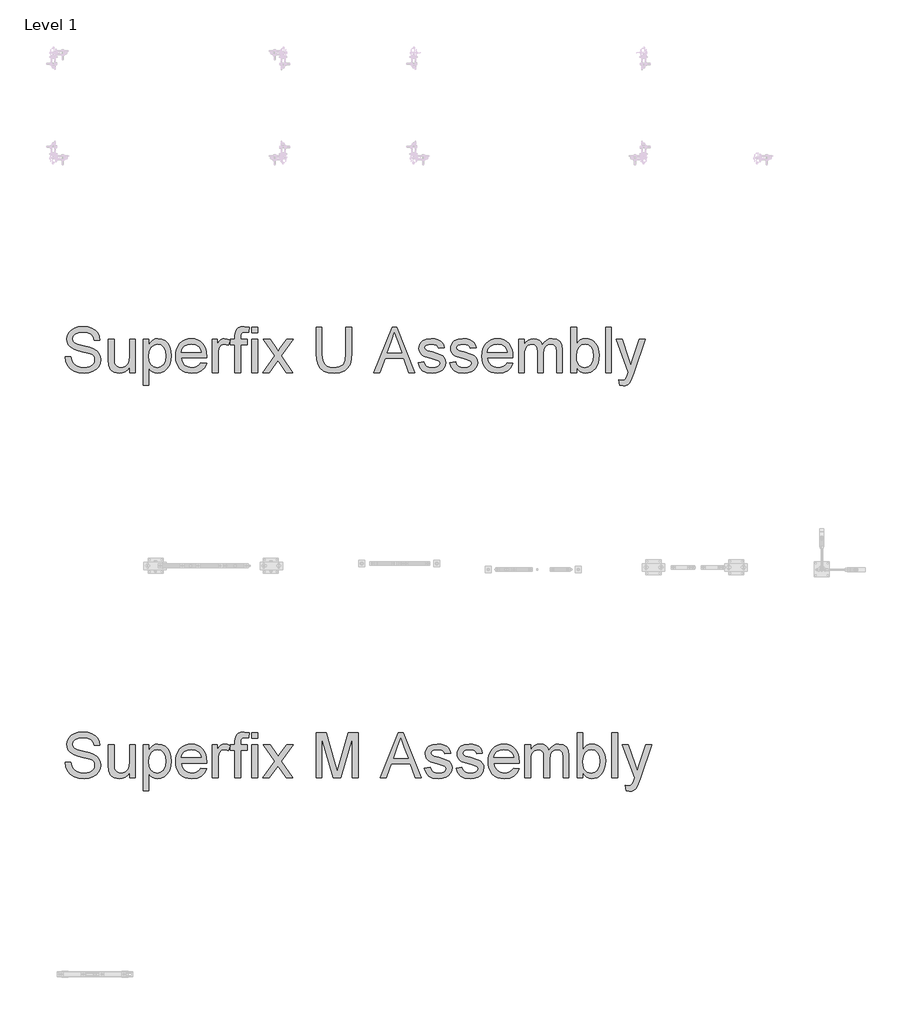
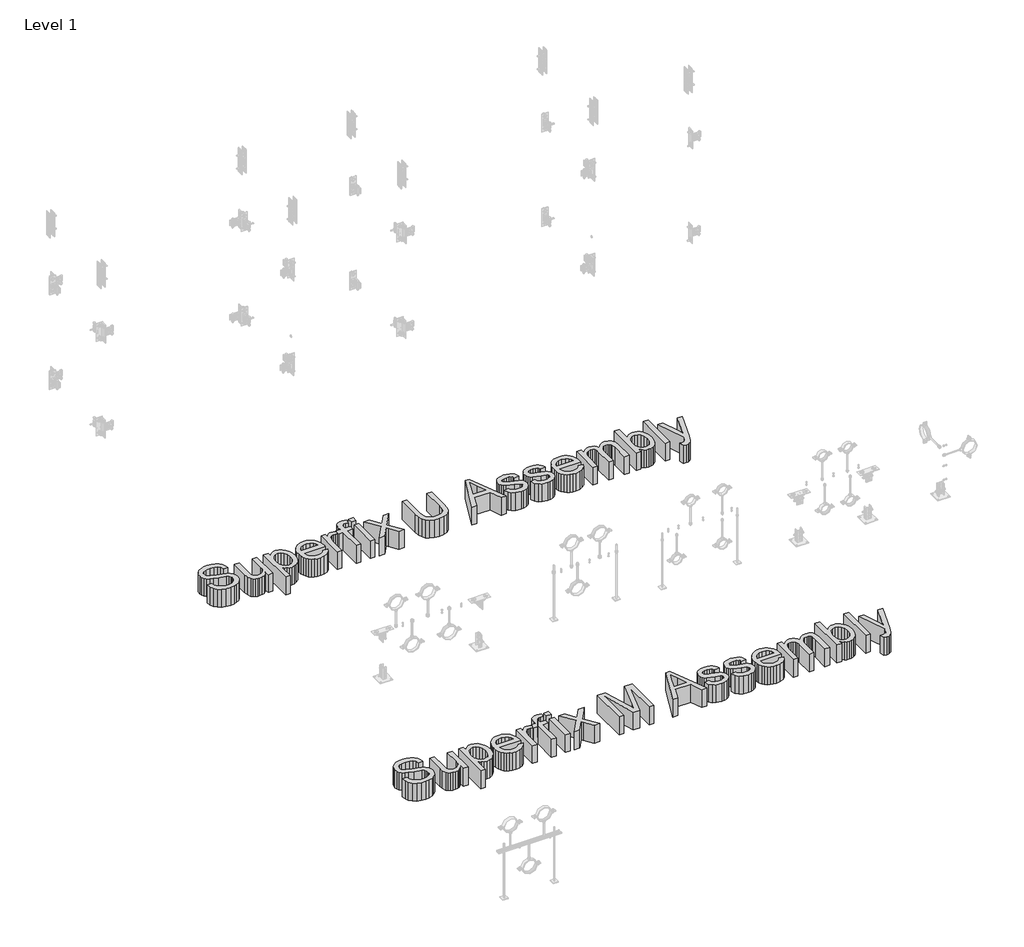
# One storey, part 29 of 32: 2 proxies.
"""IFC4 building model written with IfcOpenShell, lengths in millimetres."""

import ifcopenshell
import ifcopenshell.guid

model = None  # the IFC model being written
_history = None  # IfcOwnerHistory: only IFC2X3 demands one
_inside = {}  # id of a spatial element -> (the spatial element, [elements in it])
_under = {}  # id of a project, library or spatial element -> (it, [spatial elements below it])
_declared = {}  # id of a project -> (the project, [libraries it declares])
_typed = {}  # id of a type object -> (the type object, [elements of that type])
_made_of = {}  # id of a material, layer set ... -> (it, [elements and type objects made of it])


def new_model(schema):
    """Start an empty IFC model of exactly this schema.

    Asked for "IFC4X3", IfcOpenShell would pick the latest addendum, in which some entities
    have other attributes; the version numbers below select the first issue.
    IFC2X3 requires an IfcOwnerHistory on every rooted entity: one is made here for all.
    """
    global model, _history
    if schema == "IFC4X3":
        model = ifcopenshell.file(schema_version=(4, 3, 0, 0))
    else:
        model = ifcopenshell.file(schema=schema)
    _inside.clear()
    _under.clear()
    _declared.clear()
    _typed.clear()
    _made_of.clear()
    _history = None
    if model.schema == "IFC2X3":
        org = make("IfcOrganization", Name="unknown")
        user = make(
            "IfcPersonAndOrganization",
            ThePerson=make("IfcPerson", FamilyName="unknown"),
            TheOrganization=org,
        )
        app = make(
            "IfcApplication",
            ApplicationDeveloper=org,
            Version="unknown",
            ApplicationFullName="unknown",
            ApplicationIdentifier="unknown",
        )
        _history = make(
            "IfcOwnerHistory",
            OwningUser=user,
            OwningApplication=app,
            ChangeAction="ADDED",
            CreationDate=0,
        )
    return model


def make(cls, **values):
    """One entity of the class cls with the attributes given. An attribute that is None is left unset."""
    return model.create_entity(
        cls, **{name: value for name, value in values.items() if value is not None}
    )


def rooted(cls, **values):
    """An entity with a GlobalId (a new one), such as an element, a storey or a relation."""
    return make(cls, GlobalId=ifcopenshell.guid.new(), OwnerHistory=_history, **values)


def si_unit(unit_type, name, prefix=None):
    """IfcSIUnit, for example si_unit("LENGTHUNIT", "METRE", prefix="MILLI")."""
    return make("IfcSIUnit", UnitType=unit_type, Prefix=prefix, Name=name)


def assignment(units):
    """IfcUnitAssignment: the units of a project."""
    return None if units is None else make("IfcUnitAssignment", Units=units)


def point(xyz):
    """IfcCartesianPoint."""
    return None if xyz is None else make("IfcCartesianPoint", Coordinates=xyz)


def direction(xyz):
    """IfcDirection."""
    return None if xyz is None else make("IfcDirection", DirectionRatios=xyz)


def frame(location, z_axis=None, x_axis=None):
    """IfcAxis2Placement3D, a coordinate frame: its origin and axes. An axis left out is left unset."""
    return make(
        "IfcAxis2Placement3D",
        Location=point(location),
        Axis=direction(z_axis),
        RefDirection=direction(x_axis),
    )


def origin():
    """The frame at (0, 0, 0) with its axes left unset."""
    return frame((0.0, 0.0, 0.0))


def origin_with_axes():
    """The frame at (0, 0, 0) with the z axis (0, 0, 1) and the x axis (1, 0, 0) written out."""
    return frame((0.0, 0.0, 0.0), z_axis=(0.0, 0.0, 1.0), x_axis=(1.0, 0.0, 0.0))


def place(relative_to, where):
    """IfcLocalPlacement: puts the frame where relative to a parent placement (None: the world)."""
    return make(
        "IfcLocalPlacement", PlacementRelTo=relative_to, RelativePlacement=where
    )


def context(
    kind, dimensions, precision=None, world=None, true_north=None, identifier=None
):
    """IfcGeometricRepresentationContext, for example the 3D "Model" context."""
    return make(
        "IfcGeometricRepresentationContext",
        ContextIdentifier=identifier,
        ContextType=kind,
        CoordinateSpaceDimension=dimensions,
        Precision=precision,
        WorldCoordinateSystem=world,
        TrueNorth=true_north,
    )


def project(units=None, contexts=None):
    """IfcProject with its units and contexts."""
    return rooted(
        "IfcProject",
        Name="project",
        RepresentationContexts=contexts,
        UnitsInContext=assignment(units),
    )


def spatial(cls, under=None, at=None, **own):
    """A site, building, storey or space (cls), placed at a placement, below another one or the project."""
    s = rooted(cls, ObjectPlacement=at, **own)
    if under is not None:
        _under.setdefault(under.id(), (under, []))[1].append(s)
    return s


def polyline(points):
    """IfcPolyline through the points."""
    return make("IfcPolyline", Points=[point(p) for p in points])


def outline(outer, holes=None, kind="AREA"):
    """IfcArbitraryClosedProfileDef: a profile drawn as a closed curve; with holes, ...WithVoids."""
    if holes is None:
        return make("IfcArbitraryClosedProfileDef", ProfileType=kind, OuterCurve=outer)
    return make(
        "IfcArbitraryProfileDefWithVoids",
        ProfileType=kind,
        OuterCurve=outer,
        InnerCurves=holes,
    )


def extrude(swept, where, along, depth):
    """IfcExtrudedAreaSolid: the profile swept, set in the frame where, extruded along a direction by depth."""
    return make(
        "IfcExtrudedAreaSolid",
        SweptArea=swept,
        Position=where,
        ExtrudedDirection=direction(along),
        Depth=depth,
    )


def shape(context_of_items, identifier, shape_type, items):
    """IfcShapeRepresentation: the items that make up one representation, for example the "Body"."""
    return make(
        "IfcShapeRepresentation",
        ContextOfItems=context_of_items,
        RepresentationIdentifier=identifier,
        RepresentationType=shape_type,
        Items=items,
    )


def made_of(thing, what):
    """Note that an element or type object is made of a material, layer set ...; save() writes the relation."""
    if what is not None:
        _made_of.setdefault(what.id(), (what, []))[1].append(thing)
    return thing


def element(
    cls,
    number,
    at=None,
    inside=None,
    cuts=None,
    type_object=None,
    material=None,
    context=None,
    identifier="Body",
    shape_type=None,
    held_by="IfcProductDefinitionShape",
    body=None,
    shapes=None,
    **own,
):
    """One element of the class cls, such as IfcWall. Its Tag is "e" and its number.

    at: its placement. inside: the storey or other place that contains it. cuts: it is an
    opening in that element (IfcRelVoidsElement). A single representation is given by context,
    identifier, shape_type and body (its items); several are given by shapes. held_by: the class
    of the entity that holds the representations. save() writes the other relations.
    """
    e = rooted(cls, Tag="e%d" % number, ObjectPlacement=at, **own)
    if body is not None:
        shapes = [shape(context, identifier, shape_type, body)]
    if shapes is not None:
        e.Representation = make(held_by, Representations=shapes)
    if inside is not None:
        _inside.setdefault(inside.id(), (inside, []))[1].append(e)
    if cuts is not None:
        rooted(
            "IfcRelVoidsElement", RelatingBuildingElement=cuts, RelatedOpeningElement=e
        )
    if type_object is not None:
        _typed.setdefault(type_object.id(), (type_object, []))[1].append(e)
    return made_of(e, material)


def aggregate(whole, parts):
    """IfcRelAggregates: a whole, such as a stair, and the parts it consists of."""
    return rooted("IfcRelAggregates", RelatingObject=whole, RelatedObjects=parts)


def save(model, path):
    """Write the relations noted so far, then the file.

    IfcRelAggregates (storeys below a building ...), IfcRelContainedInSpatialStructure (elements
    in a storey), IfcRelDefinesByType, IfcRelAssociatesMaterial and IfcRelDeclares: one each for
    every whole, place, type object, material and project.
    """
    for whole, parts in _under.values():
        aggregate(whole, parts)
    for where, things in _inside.values():
        rooted(
            "IfcRelContainedInSpatialStructure",
            RelatedElements=things,
            RelatingStructure=where,
        )
    for kind, things in _typed.values():
        rooted("IfcRelDefinesByType", RelatedObjects=things, RelatingType=kind)
    for what, things in _made_of.values():
        rooted("IfcRelAssociatesMaterial", RelatedObjects=things, RelatingMaterial=what)
    for by, libraries in _declared.values():
        rooted("IfcRelDeclares", RelatingContext=by, RelatedDefinitions=libraries)
    model.write(path)


model = new_model("IFC4")

# Units and contexts
model_context = context("Model", 3, world=origin())
ifc_project = project(units=[si_unit("LENGTHUNIT", "METRE", prefix="MILLI")], contexts=[model_context])

# Site, building, storey
site = spatial("IfcSite", under=ifc_project)
building = spatial("IfcBuilding", under=site)
storey = spatial("IfcBuildingStorey", under=building, Name="Level 1", Elevation=0.0)

# Proxies
placement = place(None, origin())
element("IfcBuildingElementProxy", 1, Name="300mm Arial 2", ObjectType="300mm Arial 2", at=placement, inside=storey, context=model_context, shape_type="SweptSolid", body=[
    extrude(outline(polyline([(-22560.2603171, 27453.0745423), (-22522.5892008, 27453.0745423), (-22518.2665873, 27432.1696479), (-22510.4490949, 27415.3666378), (-22498.2538068, 27402.0309154), (-22480.7978061, 27391.5278845), (-22459.4606504, 27384.7128705), (-22435.6218971, 27382.4411992), (-22414.6342293, 27384.1610475), (-22396.2585236, 27389.3205925), (-22381.3684999, 27397.4875728), (-22370.8378778, 27408.2297271), (-22364.5746868, 27420.5629709), (-22362.4869565, 27433.5032201), (-22364.0504549, 27446.1123755), (-22368.7409504, 27457.0108796), (-22378.2690941, 27466.309097), (-22394.3455372, 27474.1173924), (-22449.1967427, 27488.5015784), (-22485.203193, 27498.020525), (-22508.241803, 27507.0796192), (-22526.9945877, 27519.7531539), (-22540.2843247, 27535.1122272), (-22548.2029847, 27552.8257453), (-22550.842538, 27572.5626143), (-22547.5775853, 27594.626337), (-22537.7827272, 27615.2001375), (-22521.715481, 27632.6377441), (-22499.6333643, 27645.2928848), (-22473.1274665, 27652.9908155), (-22443.7888774, 27655.5567924), (-22412.003873, 27652.8712539), (-22384.1919942, 27644.8146382), (-22361.3465223, 27631.5524922), (-22344.4607387, 27613.250363), (-22333.7737667, 27591.0486846), (-22329.5247297, 27566.0878912), (-22367.195846, 27566.0878912), (-22374.1120275, 27588.5654811), (-22388.5330017, 27604.7890771), (-22411.0657739, 27614.6115264), (-22442.3173494, 27617.8856761), (-22474.3046889, 27614.6483146), (-22496.2488499, 27604.9362299), (-22508.9407787, 27590.6440144), (-22513.1714217, 27573.6662603), (-22510.1731834, 27559.1901038), (-22501.1784686, 27547.5466386), (-22479.9148893, 27537.1355782), (-22439.6685991, 27526.5037885), (-22398.1347218, 27516.4054277), (-22373.0083815, 27507.594654), (-22351.5332701, 27493.9278378), (-22336.5512758, 27477.0604484), (-22327.7496991, 27457.1764265), (-22324.8158402, 27434.4597133), (-22328.1911575, 27411.2371624), (-22338.3171094, 27389.3941689), (-22354.7798287, 27370.595399), (-22377.1654481, 27356.5055185), (-22404.0852131, 27347.7039418), (-22434.1503691, 27344.7700829), (-22471.0581303, 27347.9338681), (-22501.435986, 27357.4252235), (-22525.6334243, 27373.2809375), (-22543.9999329, 27395.5377982), (-22555.7905508, 27422.6507013), (-22560.2603171, 27453.0745423)])), origin_with_axes(), (0.0, 0.0, 1.0), 150.0),
    extrude(outline(polyline([(-22131.7513691, 27349.4789724), (-22131.7513691, 27387.5179707), (-22145.381397, 27368.8157698), (-22161.2555051, 27355.4570549), (-22179.3736934, 27347.4418259), (-22199.7359618, 27344.7700829), (-22218.0840763, 27346.6462811), (-22235.1629979, 27352.2748756), (-22249.4920016, 27360.7361615), (-22259.5903624, 27371.1104337), (-22270.8107633, 27398.8487362), (-22273.0180552, 27433.8711021), (-22273.0180552, 27570.7967807), (-22235.3469389, 27570.7967807), (-22235.3469389, 27451.6030143), (-22233.0660706, 27413.196134), (-22227.5754318, 27400.3846435), (-22218.1668498, 27390.6449677), (-22205.4657239, 27384.4921413), (-22190.0974535, 27382.4411992), (-22173.8462664, 27384.5381266), (-22158.6435429, 27390.8289087), (-22146.1079639, 27400.7341314), (-22137.8582102, 27413.6743806), (-22133.2780794, 27431.3970957), (-22131.7513691, 27455.6497162), (-22131.7513691, 27570.7967807), (-22094.0802528, 27570.7967807), (-22094.0802528, 27349.4789724), (-22131.7513691, 27349.4789724)])), origin_with_axes(), (0.0, 0.0, 1.0), 150.0),
    extrude(outline(polyline([(-22042.2824679, 27264.7189607), (-22042.2824679, 27570.7967807), (-22004.6113516, 27570.7967807), (-22004.6113516, 27533.8614284), (-21992.3240929, 27552.0807842), (-21978.5653063, 27565.0946098), (-21962.5256513, 27572.9029052), (-21943.3957876, 27575.5056703), (-21917.9199594, 27571.8636385), (-21895.6447046, 27560.9375433), (-21877.5081222, 27543.3895721), (-21864.4483114, 27519.8819126), (-21856.5572426, 27492.1252161), (-21853.9268863, 27461.8301338), (-21856.8975334, 27429.612868), (-21865.8094748, 27400.7985108), (-21880.3776018, 27376.8493929), (-21900.3168059, 27359.2278453), (-21923.5393569, 27348.3845235), (-21947.9575243, 27344.7700829), (-21965.2755692, 27347.188907), (-21980.7358101, 27354.4453794), (-21993.9703648, 27365.3990658), (-22004.6113516, 27378.909532), (-22004.6113516, 27264.7189607), (-22042.2824679, 27264.7189607)]), holes=[polyline([(-22004.6113516, 27458.372043), (-22000.5370585, 27424.6004758), (-21988.3141792, 27400.9824518), (-21970.2787644, 27387.0765123), (-21948.7668647, 27382.4411992), (-21926.9054771, 27387.2420592), (-21908.4102098, 27401.6446393), (-21895.8010544, 27426.1271861), (-21891.5980026, 27461.1679462), (-21895.6998869, 27494.7555723), (-21908.0055396, 27518.7046902), (-21926.0133633, 27533.052088), (-21947.2217603, 27537.834554), (-21968.5129308, 27532.7485854), (-21987.2105332, 27517.4906796), (-22000.261147, 27492.5390833), (-22004.6113516, 27458.372043)])]), origin_with_axes(), (0.0, 0.0, 1.0), 150.0),
    extrude(outline(polyline([(-21656.5949841, 27415.403426), (-21619.6596318, 27410.6945364), (-21632.967763, 27382.8642635), (-21654.2037511, 27362.0605367), (-21682.8893497, 27349.0926963), (-21718.5463121, 27344.7700829), (-21741.9206144, 27346.6347848), (-21762.7473338, 27352.2288903), (-21781.0264705, 27361.5523997), (-21796.7580243, 27374.6053127), (-21809.4085664, 27391.024346), (-21818.4446679, 27410.4462161), (-21823.8663288, 27432.8709229), (-21825.6735491, 27458.2984666), (-21823.8479347, 27484.5882337), (-21818.3710915, 27507.7602009), (-21809.2430195, 27527.8143681), (-21796.4637187, 27544.7507355), (-21780.7735516, 27558.2060194), (-21762.9128807, 27567.8169366), (-21742.8817061, 27573.5834868), (-21720.6800277, 27575.5056703), (-21699.1934199, 27573.5880854), (-21679.7623528, 27567.8353307), (-21662.3868263, 27558.2474062), (-21647.0668404, 27544.8243119), (-21634.5611519, 27527.9247327), (-21625.6285172, 27507.9073537), (-21620.2689364, 27484.7721747), (-21618.4824094, 27458.5191958), (-21618.7031386, 27448.3656527), (-21788.0024328, 27448.3656527), (-21781.4817244, 27420.1674978), (-21766.3341833, 27399.4373474), (-21744.4727957, 27386.6902362), (-21717.8105481, 27382.4411992), (-21697.7609794, 27384.4093679), (-21680.8751958, 27390.3138739), (-21667.1531974, 27400.5225993), (-21656.5949841, 27415.403426)]), holes=[polyline([(-21788.0024328, 27486.036769), (-21656.1535257, 27486.036769), (-21661.2486914, 27505.939185), (-21671.2366875, 27520.1762182), (-21693.1992426, 27533.41997), (-21720.8271805, 27537.834554), (-21746.2202352, 27534.3120839), (-21767.2171001, 27523.7446735), (-21781.8128182, 27507.2727572), (-21788.0024328, 27486.036769)])]), origin_with_axes(), (0.0, 0.0, 1.0), 150.0),
    extrude(outline(polyline([(-21580.8112931, 27349.4789724), (-21580.8112931, 27570.7967807), (-21547.8490663, 27570.7967807), (-21547.8490663, 27538.0552832), (-21535.6721723, 27557.0379941), (-21524.4517714, 27568.2216068), (-21513.1945824, 27573.6846544), (-21500.9073238, 27575.5056703), (-21482.145342, 27572.5994025), (-21463.0890547, 27563.8805992), (-21475.6706189, 27530.1090321), (-21488.9143707, 27535.9031735), (-21502.1581225, 27537.834554), (-21513.4061145, 27535.9767499), (-21523.4584901, 27530.4033377), (-21531.5794851, 27521.5373816), (-21537.0333357, 27509.8019459), (-21541.6134665, 27488.7590958), (-21543.1401768, 27465.8032593), (-21543.1401768, 27349.4789724), (-21580.8112931, 27349.4789724)])), origin_with_axes(), (0.0, 0.0, 1.0), 150.0),
    extrude(outline(polyline([(-21430.1268279, 27349.4789724), (-21430.1268279, 27533.1256644), (-21463.0890547, 27533.1256644), (-21463.0890547, 27570.7967807), (-21430.1268279, 27570.7967807), (-21430.1268279, 27593.0904296), (-21426.1537023, 27624.507552), (-21418.5753332, 27637.033934), (-21406.8766858, 27646.9483537), (-21390.505937, 27653.4046827), (-21368.9112639, 27655.5567924), (-21334.5510855, 27651.4365141), (-21340.0693155, 27616.1198425), (-21361.7743532, 27617.8856761), (-21376.0941598, 27616.3221776), (-21385.5027419, 27611.6316822), (-21390.7174692, 27602.6737556), (-21392.4557116, 27588.3079637), (-21392.4557116, 27570.7967807), (-21350.0757057, 27570.7967807), (-21350.0757057, 27533.1256644), (-21392.4557116, 27533.1256644), (-21392.4557116, 27349.4789724), (-21430.1268279, 27349.4789724)])), origin_with_axes(), (0.0, 0.0, 1.0), 150.0),
    extrude(outline(polyline([(-21317.113479, 27349.4789724), (-21317.113479, 27570.7967807), (-21279.4423627, 27570.7967807), (-21279.4423627, 27349.4789724), (-21317.113479, 27349.4789724)])), origin_with_axes(), (0.0, 0.0, 1.0), 150.0),
    extrude(outline(polyline([(-21317.113479, 27613.1767866), (-21317.113479, 27650.8479029), (-21279.4423627, 27650.8479029), (-21279.4423627, 27613.1767866), (-21317.113479, 27613.1767866)])), origin_with_axes(), (0.0, 0.0, 1.0), 150.0),
    extrude(outline(polyline([(-21246.4801359, 27349.4789724), (-21165.9875553, 27460.7264878), (-21241.7712464, 27570.7967807), (-21196.4481845, 27570.7967807), (-21159.8807142, 27517.8217734), (-21142.8109897, 27492.8057978), (-21128.0221334, 27513.2600367), (-21086.3778916, 27570.7967807), (-21041.0548298, 27570.7967807), (-21120.6644935, 27460.7264878), (-21043.9978857, 27349.4789724), (-21089.3209476, 27349.4789724), (-21135.4533497, 27416.3599192), (-21143.9146356, 27428.5736014), (-21201.1570741, 27349.4789724), (-21246.4801359, 27349.4789724)])), origin_with_axes(), (0.0, 0.0, 1.0), 150.0),
    extrude(outline(polyline([(-20690.8311704, 27650.8479029), (-20653.1600541, 27650.8479029), (-20653.1600541, 27476.986872), (-20655.7168339, 27436.2715321), (-20663.3871735, 27404.9187891), (-20677.7161773, 27380.7305479), (-20700.2489495, 27361.5087137), (-20731.0406725, 27348.9547406), (-20770.1465285, 27344.7700829), (-20808.397059, 27348.4121146), (-20838.9772498, 27359.3382099), (-20861.8962981, 27377.1712896), (-20877.1634009, 27401.5342747), (-20885.7442485, 27434.211393), (-20888.604531, 27476.986872), (-20888.604531, 27650.8479029), (-20850.9334147, 27650.8479029), (-20850.9334147, 27478.3112471), (-20849.0756106, 27444.4569065), (-20843.5021984, 27420.8848677), (-20833.4038376, 27404.5601042), (-20817.9711879, 27392.4475895), (-20797.8480428, 27384.9427968), (-20773.6781957, 27382.4411992), (-20735.3632859, 27387.389212), (-20721.0204866, 27393.5742281), (-20709.8874577, 27402.2332505), (-20701.550332, 27414.4101446), (-20695.5952422, 27431.1487754), (-20690.8311704, 27478.3112471), (-20690.8311704, 27650.8479029)])), origin_with_axes(), (0.0, 0.0, 1.0), 150.0),
    extrude(outline(polyline([(-20504.6093044, 27349.4789724), (-20384.311892, 27650.8479029), (-20352.232582, 27650.8479029), (-20231.9351696, 27349.4789724), (-20271.7400015, 27349.4789724), (-20306.2473326, 27443.6567632), (-20430.3707178, 27443.6567632), (-20464.8044725, 27349.4789724), (-20504.6093044, 27349.4789724)]), holes=[polyline([(-20416.5383548, 27481.3278795), (-20320.0061192, 27481.3278795), (-20347.1558105, 27555.4193133), (-20368.272237, 27613.1767866), (-20387.0342188, 27561.8940364), (-20416.5383548, 27481.3278795)])]), origin_with_axes(), (0.0, 0.0, 1.0), 150.0),
    extrude(outline(polyline([(-20210.5244375, 27415.403426), (-20172.8533212, 27420.1123155), (-20166.9120269, 27403.9990841), (-20155.4157146, 27392.1532839), (-20138.2908077, 27384.8692204), (-20115.4637299, 27382.4411992), (-20092.9125636, 27384.6668853), (-20077.0568496, 27391.3439435), (-20067.6758587, 27401.01924), (-20064.5488618, 27412.2396408), (-20067.6942528, 27421.8413609), (-20077.130426, 27429.1622126), (-20115.9051883, 27439.9043668), (-20172.632592, 27458.3352548), (-20186.9891868, 27467.596684), (-20197.3910502, 27479.8563515), (-20203.7094235, 27494.332508), (-20205.8155479, 27510.2434043), (-20204.1232908, 27524.8391225), (-20199.0465192, 27538.3128006), (-20191.0450858, 27550.1310096), (-20180.5788431, 27559.7603209), (-20156.6297252, 27570.9071453), (-20124.2193214, 27575.5056703), (-20099.6999864, 27573.6570632), (-20078.3812248, 27568.1112422), (-20061.2379238, 27559.410833), (-20049.2449708, 27548.0984616), (-20041.2987197, 27533.3371966), (-20036.2955246, 27514.2901063), (-20073.9666409, 27509.5812167), (-20078.7215157, 27521.436214), (-20088.1300977, 27530.3665495), (-20102.2843574, 27535.9675528), (-20121.2762654, 27537.834554), (-20142.9077268, 27536.0503263), (-20157.328701, 27530.6976433), (-20165.440499, 27522.9721214), (-20168.1444316, 27514.0693771), (-20163.6562713, 27503.1064936), (-20149.6031791, 27494.7923605), (-20117.1559871, 27486.772533), (-20061.8633232, 27469.0406209), (-20047.258408, 27460.5609409), (-20036.18516, 27448.9542639), (-20029.2045991, 27434.1838018), (-20026.8777455, 27416.2127664), (-20029.6092693, 27397.6347256), (-20037.8038407, 27380.1603308), (-20051.1487601, 27365.1599425), (-20069.3313277, 27354.003921), (-20091.2938828, 27347.0785424), (-20115.9787647, 27344.7700829), (-20153.9625807, 27349.221455), (-20181.6824891, 27362.5755715), (-20200.1869534, 27384.6852794), (-20210.5244375, 27415.403426)])), origin_with_axes(), (0.0, 0.0, 1.0), 150.0),
    extrude(outline(polyline([(-19998.6244083, 27415.403426), (-19960.9532919, 27420.1123155), (-19955.0119977, 27403.9990841), (-19943.5156854, 27392.1532839), (-19926.3907785, 27384.8692204), (-19903.5637007, 27382.4411992), (-19881.0125344, 27384.6668853), (-19865.1568204, 27391.3439435), (-19855.7758295, 27401.01924), (-19852.6488326, 27412.2396408), (-19855.7942236, 27421.8413609), (-19865.2303968, 27429.1622126), (-19904.0051591, 27439.9043668), (-19960.7325628, 27458.3352548), (-19975.0891576, 27467.596684), (-19985.491021, 27479.8563515), (-19991.8093943, 27494.332508), (-19993.9155187, 27510.2434043), (-19992.2232615, 27524.8391225), (-19987.14649, 27538.3128006), (-19979.1450566, 27550.1310096), (-19968.6788138, 27559.7603209), (-19944.729696, 27570.9071453), (-19912.3192922, 27575.5056703), (-19887.7999572, 27573.6570632), (-19866.4811956, 27568.1112422), (-19849.3378946, 27559.410833), (-19837.3449416, 27548.0984616), (-19829.3986905, 27533.3371966), (-19824.3954953, 27514.2901063), (-19862.0666116, 27509.5812167), (-19866.8214864, 27521.436214), (-19876.2300685, 27530.3665495), (-19890.3843282, 27535.9675528), (-19909.3762362, 27537.834554), (-19931.0076975, 27536.0503263), (-19945.4286718, 27530.6976433), (-19953.5404697, 27522.9721214), (-19956.2444024, 27514.0693771), (-19951.7562421, 27503.1064936), (-19937.7031499, 27494.7923605), (-19905.2559579, 27486.772533), (-19849.963294, 27469.0406209), (-19835.3583788, 27460.5609409), (-19824.2851307, 27448.9542639), (-19817.3045699, 27434.1838018), (-19814.9777163, 27416.2127664), (-19817.7092401, 27397.6347256), (-19825.9038115, 27380.1603308), (-19839.2487309, 27365.1599425), (-19857.4312985, 27354.003921), (-19879.3938536, 27347.0785424), (-19904.0787355, 27344.7700829), (-19942.0625515, 27349.221455), (-19969.7824598, 27362.5755715), (-19988.2869242, 27384.6852794), (-19998.6244083, 27415.403426)])), origin_with_axes(), (0.0, 0.0, 1.0), 150.0),
    extrude(outline(polyline([(-19617.645814, 27415.403426), (-19580.7104617, 27410.6945364), (-19594.0185929, 27382.8642635), (-19615.2545811, 27362.0605367), (-19643.9401797, 27349.0926963), (-19679.597142, 27344.7700829), (-19702.9714443, 27346.6347848), (-19723.7981638, 27352.2288903), (-19742.0773004, 27361.5523997), (-19757.8088542, 27374.6053127), (-19770.4593963, 27391.024346), (-19779.4954978, 27410.4462161), (-19784.9171587, 27432.8709229), (-19786.724379, 27458.2984666), (-19784.8987646, 27484.5882337), (-19779.4219214, 27507.7602009), (-19770.2938494, 27527.8143681), (-19757.5145486, 27544.7507355), (-19741.8243815, 27558.2060194), (-19723.9637107, 27567.8169366), (-19703.932536, 27573.5834868), (-19681.7308576, 27575.5056703), (-19660.2442498, 27573.5880854), (-19640.8131827, 27567.8353307), (-19623.4376562, 27558.2474062), (-19608.1176704, 27544.8243119), (-19595.6119818, 27527.9247327), (-19586.6793471, 27507.9073537), (-19581.3197663, 27484.7721747), (-19579.5332393, 27458.5191958), (-19579.7539685, 27448.3656527), (-19749.0532627, 27448.3656527), (-19742.5325544, 27420.1674978), (-19727.3850132, 27399.4373474), (-19705.5236256, 27386.6902362), (-19678.861378, 27382.4411992), (-19658.8118093, 27384.4093679), (-19641.9260257, 27390.3138739), (-19628.2040273, 27400.5225993), (-19617.645814, 27415.403426)]), holes=[polyline([(-19749.0532627, 27486.036769), (-19617.2043557, 27486.036769), (-19622.2995213, 27505.939185), (-19632.2875175, 27520.1762182), (-19654.2500726, 27533.41997), (-19681.8780104, 27537.834554), (-19707.2710651, 27534.3120839), (-19728.26793, 27523.7446735), (-19742.8636482, 27507.2727572), (-19749.0532627, 27486.036769)])]), origin_with_axes(), (0.0, 0.0, 1.0), 150.0),
    extrude(outline(polyline([(-19541.862123, 27349.4789724), (-19541.862123, 27570.7967807), (-19504.1910067, 27570.7967807), (-19504.1910067, 27534.3764632), (-19492.8602413, 27551.1058969), (-19478.2921143, 27564.211693), (-19460.9832664, 27572.682176), (-19441.4303384, 27575.5056703), (-19420.4794587, 27572.6269937), (-19403.6856457, 27563.9909638), (-19391.1408696, 27550.1677978), (-19382.9371011, 27531.7277128), (-19369.2059057, 27550.8805692), (-19353.5433297, 27564.5611809), (-19335.9493733, 27572.7695479), (-19316.4240364, 27575.5056703), (-19288.1063198, 27570.9531306), (-19267.1646372, 27557.2955115), (-19254.2243881, 27534.1649311), (-19249.9109717, 27501.1935072), (-19249.9109717, 27349.4789724), (-19287.582088, 27349.4789724), (-19287.582088, 27485.0066995), (-19291.0769669, 27516.46061), (-19295.9881916, 27525.1334281), (-19303.7321076, 27531.948442), (-19313.6925126, 27536.363026), (-19325.2532043, 27537.834554), (-19345.661458, 27534.0637635), (-19362.2989212, 27522.7513922), (-19373.3629722, 27503.1248877), (-19377.0509892, 27474.411698), (-19377.0509892, 27349.4789724), (-19414.7221055, 27349.4789724), (-19414.7221055, 27489.2005542), (-19416.9018063, 27510.5009217), (-19423.4409088, 27525.6944481), (-19434.9464182, 27534.7995275), (-19452.0253398, 27537.834554), (-19466.5382845, 27535.811203), (-19479.9107951, 27529.7411501), (-19490.9472549, 27519.771548), (-19498.4520476, 27506.0495496), (-19502.756267, 27487.0116563), (-19504.1910067, 27461.0943698), (-19504.1910067, 27349.4789724), (-19541.862123, 27349.4789724)])), origin_with_axes(), (0.0, 0.0, 1.0), 150.0),
    extrude(outline(polyline([(-19155.7331809, 27349.4789724), (-19193.4042972, 27349.4789724), (-19193.4042972, 27650.8479029), (-19155.7331809, 27650.8479029), (-19155.7331809, 27539.0853527), (-19143.3447547, 27555.0192417), (-19129.3560419, 27566.4005909), (-19113.7670423, 27573.2294004), (-19096.5777561, 27575.5056703), (-19077.1719808, 27573.4547281), (-19058.8330634, 27567.3019018), (-19042.6094674, 27557.4334673), (-19029.5496566, 27544.2357007), (-19019.31334, 27527.8373607), (-19011.560227, 27508.3672061), (-19006.6765935, 27486.6345773), (-19005.0487157, 27463.4488145), (-19006.7340751, 27436.6945964), (-19011.7901532, 27413.1593458), (-19020.2169502, 27392.8430626), (-19032.0144659, 27375.7457469), (-19046.1756235, 27362.1938939), (-19061.6933459, 27352.5139989), (-19078.5676332, 27346.7060619), (-19096.7984853, 27344.7700829), (-19114.5533901, 27347.2670819), (-19130.2941409, 27354.7580791), (-19144.0207379, 27367.2430743), (-19155.7331809, 27384.7220676), (-19155.7331809, 27349.4789724)]), holes=[polyline([(-19155.7331809, 27461.682981), (-19153.1580069, 27430.2658586), (-19145.432485, 27409.0022792), (-19136.304413, 27397.3818067), (-19125.695616, 27389.0814692), (-19113.6060939, 27384.1012667), (-19100.0358468, 27382.4411992), (-19078.2940209, 27387.3340297), (-19059.7159802, 27402.0125213), (-19046.968869, 27426.3847035), (-19042.719832, 27460.3586058), (-19046.7941251, 27494.8291487), (-19059.0170044, 27518.9254194), (-19077.015631, 27533.1072703), (-19098.4171661, 27537.834554), (-19120.158992, 27532.9417234), (-19138.7370327, 27518.2632318), (-19151.4841439, 27494.332508), (-19155.7331809, 27461.682981)])]), origin_with_axes(), (0.0, 0.0, 1.0), 150.0),
    extrude(outline(polyline([(-18962.6687098, 27349.4789724), (-18962.6687098, 27650.8479029), (-18924.9975935, 27650.8479029), (-18924.9975935, 27349.4789724), (-18962.6687098, 27349.4789724)])), origin_with_axes(), (0.0, 0.0, 1.0), 150.0),
    extrude(outline(polyline([(-18868.4909191, 27264.7189607), (-18873.1998086, 27300.9921255), (-18854.0699449, 27297.6811875), (-18836.1908799, 27301.8382541), (-18825.2279964, 27313.4265369), (-18814.9273006, 27341.1648393), (-18811.9842446, 27350.2883128), (-18892.0353668, 27570.7967807), (-18852.3041113, 27570.7967807), (-18809.850529, 27447.9241943), (-18795.0616728, 27398.7751598), (-18780.2728166, 27442.1852352), (-18736.642012, 27570.7967807), (-18697.2050621, 27570.7967807), (-18774.2395519, 27344.1814717), (-18794.2523324, 27295.0324371), (-18804.497846, 27279.34227), (-18816.104523, 27268.4713571), (-18829.5873981, 27262.1253927), (-18845.4615062, 27260.0100712), (-18868.4909191, 27264.7189607)])), origin_with_axes(), (0.0, 0.0, 1.0), 150.0),
])
element("IfcBuildingElementProxy", 2, Name="300mm Arial 2", ObjectType="300mm Arial 2", at=placement, inside=storey, context=model_context, shape_type="SweptSolid", body=[
    extrude(outline(polyline([(-22560.2603171, 24753.0745423), (-22522.5892008, 24753.0745423), (-22518.2665873, 24732.1696479), (-22510.4490949, 24715.3666378), (-22498.2538068, 24702.0309154), (-22480.7978061, 24691.5278845), (-22459.4606504, 24684.7128705), (-22435.6218971, 24682.4411992), (-22414.6342293, 24684.1610475), (-22396.2585236, 24689.3205925), (-22381.3684999, 24697.4875728), (-22370.8378778, 24708.2297271), (-22364.5746868, 24720.5629709), (-22362.4869565, 24733.5032201), (-22364.0504549, 24746.1123755), (-22368.7409504, 24757.0108796), (-22378.2690941, 24766.309097), (-22394.3455372, 24774.1173924), (-22449.1967427, 24788.5015784), (-22485.203193, 24798.020525), (-22508.241803, 24807.0796192), (-22526.9945877, 24819.7531539), (-22540.2843247, 24835.1122272), (-22548.2029847, 24852.8257453), (-22550.842538, 24872.5626143), (-22547.5775853, 24894.626337), (-22537.7827272, 24915.2001375), (-22521.715481, 24932.6377441), (-22499.6333643, 24945.2928848), (-22473.1274665, 24952.9908155), (-22443.7888774, 24955.5567924), (-22412.003873, 24952.8712539), (-22384.1919942, 24944.8146382), (-22361.3465223, 24931.5524922), (-22344.4607387, 24913.250363), (-22333.7737667, 24891.0486846), (-22329.5247297, 24866.0878912), (-22367.195846, 24866.0878912), (-22374.1120275, 24888.5654811), (-22388.5330017, 24904.7890771), (-22411.0657739, 24914.6115264), (-22442.3173494, 24917.8856761), (-22474.3046889, 24914.6483146), (-22496.2488499, 24904.9362299), (-22508.9407787, 24890.6440144), (-22513.1714217, 24873.6662603), (-22510.1731834, 24859.1901038), (-22501.1784686, 24847.5466386), (-22479.9148893, 24837.1355782), (-22439.6685991, 24826.5037885), (-22398.1347218, 24816.4054277), (-22373.0083815, 24807.594654), (-22351.5332701, 24793.9278378), (-22336.5512758, 24777.0604484), (-22327.7496991, 24757.1764265), (-22324.8158402, 24734.4597133), (-22328.1911575, 24711.2371624), (-22338.3171094, 24689.3941689), (-22354.7798287, 24670.595399), (-22377.1654481, 24656.5055185), (-22404.0852131, 24647.7039418), (-22434.1503691, 24644.7700829), (-22471.0581303, 24647.9338681), (-22501.435986, 24657.4252235), (-22525.6334243, 24673.2809375), (-22543.9999329, 24695.5377982), (-22555.7905508, 24722.6507013), (-22560.2603171, 24753.0745423)])), origin_with_axes(), (0.0, 0.0, 1.0), 150.0),
    extrude(outline(polyline([(-22131.7513691, 24649.4789724), (-22131.7513691, 24687.5179707), (-22145.381397, 24668.8157698), (-22161.2555051, 24655.4570549), (-22179.3736934, 24647.4418259), (-22199.7359618, 24644.7700829), (-22218.0840763, 24646.6462811), (-22235.1629979, 24652.2748756), (-22249.4920016, 24660.7361615), (-22259.5903624, 24671.1104337), (-22270.8107633, 24698.8487362), (-22273.0180552, 24733.8711021), (-22273.0180552, 24870.7967807), (-22235.3469389, 24870.7967807), (-22235.3469389, 24751.6030143), (-22233.0660706, 24713.196134), (-22227.5754318, 24700.3846435), (-22218.1668498, 24690.6449677), (-22205.4657239, 24684.4921413), (-22190.0974535, 24682.4411992), (-22173.8462664, 24684.5381266), (-22158.6435429, 24690.8289087), (-22146.1079639, 24700.7341314), (-22137.8582102, 24713.6743806), (-22133.2780794, 24731.3970957), (-22131.7513691, 24755.6497162), (-22131.7513691, 24870.7967807), (-22094.0802528, 24870.7967807), (-22094.0802528, 24649.4789724), (-22131.7513691, 24649.4789724)])), origin_with_axes(), (0.0, 0.0, 1.0), 150.0),
    extrude(outline(polyline([(-22042.2824679, 24564.7189607), (-22042.2824679, 24870.7967807), (-22004.6113516, 24870.7967807), (-22004.6113516, 24833.8614284), (-21992.3240929, 24852.0807842), (-21978.5653063, 24865.0946098), (-21962.5256513, 24872.9029052), (-21943.3957876, 24875.5056703), (-21917.9199594, 24871.8636385), (-21895.6447046, 24860.9375433), (-21877.5081222, 24843.3895721), (-21864.4483114, 24819.8819126), (-21856.5572426, 24792.1252161), (-21853.9268863, 24761.8301338), (-21856.8975334, 24729.612868), (-21865.8094748, 24700.7985108), (-21880.3776018, 24676.8493929), (-21900.3168059, 24659.2278453), (-21923.5393569, 24648.3845235), (-21947.9575243, 24644.7700829), (-21965.2755692, 24647.188907), (-21980.7358101, 24654.4453794), (-21993.9703648, 24665.3990658), (-22004.6113516, 24678.909532), (-22004.6113516, 24564.7189607), (-22042.2824679, 24564.7189607)]), holes=[polyline([(-22004.6113516, 24758.372043), (-22000.5370585, 24724.6004758), (-21988.3141792, 24700.9824518), (-21970.2787644, 24687.0765123), (-21948.7668647, 24682.4411992), (-21926.9054771, 24687.2420592), (-21908.4102098, 24701.6446393), (-21895.8010544, 24726.1271861), (-21891.5980026, 24761.1679462), (-21895.6998869, 24794.7555723), (-21908.0055396, 24818.7046902), (-21926.0133633, 24833.052088), (-21947.2217603, 24837.834554), (-21968.5129308, 24832.7485854), (-21987.2105332, 24817.4906796), (-22000.261147, 24792.5390833), (-22004.6113516, 24758.372043)])]), origin_with_axes(), (0.0, 0.0, 1.0), 150.0),
    extrude(outline(polyline([(-21656.5949841, 24715.403426), (-21619.6596318, 24710.6945364), (-21632.967763, 24682.8642635), (-21654.2037511, 24662.0605367), (-21682.8893497, 24649.0926963), (-21718.5463121, 24644.7700829), (-21741.9206144, 24646.6347848), (-21762.7473338, 24652.2288903), (-21781.0264705, 24661.5523997), (-21796.7580243, 24674.6053127), (-21809.4085664, 24691.024346), (-21818.4446679, 24710.4462161), (-21823.8663288, 24732.8709229), (-21825.6735491, 24758.2984666), (-21823.8479347, 24784.5882337), (-21818.3710915, 24807.7602009), (-21809.2430195, 24827.8143681), (-21796.4637187, 24844.7507355), (-21780.7735516, 24858.2060194), (-21762.9128807, 24867.8169366), (-21742.8817061, 24873.5834868), (-21720.6800277, 24875.5056703), (-21699.1934199, 24873.5880854), (-21679.7623528, 24867.8353307), (-21662.3868263, 24858.2474062), (-21647.0668404, 24844.8243119), (-21634.5611519, 24827.9247327), (-21625.6285172, 24807.9073537), (-21620.2689364, 24784.7721747), (-21618.4824094, 24758.5191958), (-21618.7031386, 24748.3656527), (-21788.0024328, 24748.3656527), (-21781.4817244, 24720.1674978), (-21766.3341833, 24699.4373474), (-21744.4727957, 24686.6902362), (-21717.8105481, 24682.4411992), (-21697.7609794, 24684.4093679), (-21680.8751958, 24690.3138739), (-21667.1531974, 24700.5225993), (-21656.5949841, 24715.403426)]), holes=[polyline([(-21788.0024328, 24786.036769), (-21656.1535257, 24786.036769), (-21661.2486914, 24805.939185), (-21671.2366875, 24820.1762182), (-21693.1992426, 24833.41997), (-21720.8271805, 24837.834554), (-21746.2202352, 24834.3120839), (-21767.2171001, 24823.7446735), (-21781.8128182, 24807.2727572), (-21788.0024328, 24786.036769)])]), origin_with_axes(), (0.0, 0.0, 1.0), 150.0),
    extrude(outline(polyline([(-21580.8112931, 24649.4789724), (-21580.8112931, 24870.7967807), (-21547.8490663, 24870.7967807), (-21547.8490663, 24838.0552832), (-21535.6721723, 24857.0379941), (-21524.4517714, 24868.2216068), (-21513.1945824, 24873.6846544), (-21500.9073238, 24875.5056703), (-21482.145342, 24872.5994025), (-21463.0890547, 24863.8805992), (-21475.6706189, 24830.1090321), (-21488.9143707, 24835.9031735), (-21502.1581225, 24837.834554), (-21513.4061145, 24835.9767499), (-21523.4584901, 24830.4033377), (-21531.5794851, 24821.5373816), (-21537.0333357, 24809.8019459), (-21541.6134665, 24788.7590958), (-21543.1401768, 24765.8032593), (-21543.1401768, 24649.4789724), (-21580.8112931, 24649.4789724)])), origin_with_axes(), (0.0, 0.0, 1.0), 150.0),
    extrude(outline(polyline([(-21430.1268279, 24649.4789724), (-21430.1268279, 24833.1256644), (-21463.0890547, 24833.1256644), (-21463.0890547, 24870.7967807), (-21430.1268279, 24870.7967807), (-21430.1268279, 24893.0904296), (-21426.1537023, 24924.507552), (-21418.5753332, 24937.033934), (-21406.8766858, 24946.9483537), (-21390.505937, 24953.4046827), (-21368.9112639, 24955.5567924), (-21334.5510855, 24951.4365141), (-21340.0693155, 24916.1198425), (-21361.7743532, 24917.8856761), (-21376.0941598, 24916.3221776), (-21385.5027419, 24911.6316822), (-21390.7174692, 24902.6737556), (-21392.4557116, 24888.3079637), (-21392.4557116, 24870.7967807), (-21350.0757057, 24870.7967807), (-21350.0757057, 24833.1256644), (-21392.4557116, 24833.1256644), (-21392.4557116, 24649.4789724), (-21430.1268279, 24649.4789724)])), origin_with_axes(), (0.0, 0.0, 1.0), 150.0),
    extrude(outline(polyline([(-21317.113479, 24649.4789724), (-21317.113479, 24870.7967807), (-21279.4423627, 24870.7967807), (-21279.4423627, 24649.4789724), (-21317.113479, 24649.4789724)])), origin_with_axes(), (0.0, 0.0, 1.0), 150.0),
    extrude(outline(polyline([(-21317.113479, 24913.1767866), (-21317.113479, 24950.8479029), (-21279.4423627, 24950.8479029), (-21279.4423627, 24913.1767866), (-21317.113479, 24913.1767866)])), origin_with_axes(), (0.0, 0.0, 1.0), 150.0),
    extrude(outline(polyline([(-21246.4801359, 24649.4789724), (-21165.9875553, 24760.7264878), (-21241.7712464, 24870.7967807), (-21196.4481845, 24870.7967807), (-21159.8807142, 24817.8217734), (-21142.8109897, 24792.8057978), (-21128.0221334, 24813.2600367), (-21086.3778916, 24870.7967807), (-21041.0548298, 24870.7967807), (-21120.6644935, 24760.7264878), (-21043.9978857, 24649.4789724), (-21089.3209476, 24649.4789724), (-21135.4533497, 24716.3599192), (-21143.9146356, 24728.5736014), (-21201.1570741, 24649.4789724), (-21246.4801359, 24649.4789724)])), origin_with_axes(), (0.0, 0.0, 1.0), 150.0),
    extrude(outline(polyline([(-20888.604531, 24649.4789724), (-20888.604531, 24950.8479029), (-20823.7837234, 24950.8479029), (-20762.126701, 24738.4328389), (-20749.6922896, 24694.0662702), (-20736.2278086, 24742.1116588), (-20675.6008558, 24950.8479029), (-20610.7800482, 24950.8479029), (-20610.7800482, 24649.4789724), (-20648.4511645, 24649.4789724), (-20648.4511645, 24913.1767866), (-20724.1612791, 24649.4789724), (-20775.2233001, 24649.4789724), (-20850.9334147, 24913.1767866), (-20850.9334147, 24649.4789724), (-20888.604531, 24649.4789724)])), origin_with_axes(), (0.0, 0.0, 1.0), 150.0),
    extrude(outline(polyline([(-20462.2292986, 24649.4789724), (-20341.9318862, 24950.8479029), (-20309.8525762, 24950.8479029), (-20189.5551638, 24649.4789724), (-20229.3599956, 24649.4789724), (-20263.8673268, 24743.6567632), (-20387.9907119, 24743.6567632), (-20422.4244667, 24649.4789724), (-20462.2292986, 24649.4789724)]), holes=[polyline([(-20374.1583489, 24781.3278795), (-20277.6261134, 24781.3278795), (-20304.7758046, 24855.4193133), (-20325.8922312, 24913.1767866), (-20344.6542129, 24861.8940364), (-20374.1583489, 24781.3278795)])]), origin_with_axes(), (0.0, 0.0, 1.0), 150.0),
    extrude(outline(polyline([(-20168.1444316, 24715.403426), (-20130.4733153, 24720.1123155), (-20124.5320211, 24703.9990841), (-20113.0357088, 24692.1532839), (-20095.9108019, 24684.8692204), (-20073.0837241, 24682.4411992), (-20050.5325578, 24684.6668853), (-20034.6768438, 24691.3439435), (-20025.2958529, 24701.01924), (-20022.1688559, 24712.2396408), (-20025.314247, 24721.8413609), (-20034.7504202, 24729.1622126), (-20073.5251825, 24739.9043668), (-20130.2525861, 24758.3352548), (-20144.609181, 24767.596684), (-20155.0110444, 24779.8563515), (-20161.3294177, 24794.332508), (-20163.4355421, 24810.2434043), (-20161.7432849, 24824.8391225), (-20156.6665134, 24838.3128006), (-20148.66508, 24850.1310096), (-20138.1988372, 24859.7603209), (-20114.2497193, 24870.9071453), (-20081.8393156, 24875.5056703), (-20057.3199806, 24873.6570632), (-20036.001219, 24868.1112422), (-20018.857918, 24859.410833), (-20006.8649649, 24848.0984616), (-19998.9187139, 24833.3371966), (-19993.9155187, 24814.2901063), (-20031.586635, 24809.5812167), (-20036.3415098, 24821.436214), (-20045.7500918, 24830.3665495), (-20059.9043516, 24835.9675528), (-20078.8962596, 24837.834554), (-20100.5277209, 24836.0503263), (-20114.9486951, 24830.6976433), (-20123.0604931, 24822.9721214), (-20125.7644258, 24814.0693771), (-20121.2762654, 24803.1064936), (-20107.2231732, 24794.7923605), (-20074.7759813, 24786.772533), (-20019.4833174, 24769.0406209), (-20004.8784022, 24760.5609409), (-19993.8051541, 24748.9542639), (-19986.8245933, 24734.1838018), (-19984.4977396, 24716.2127664), (-19987.2292635, 24697.6347256), (-19995.4238349, 24680.1603308), (-20008.7687543, 24665.1599425), (-20026.9513219, 24654.003921), (-20048.913877, 24647.0785424), (-20073.5987589, 24644.7700829), (-20111.5825749, 24649.221455), (-20139.3024832, 24662.5755715), (-20157.8069476, 24684.6852794), (-20168.1444316, 24715.403426)])), origin_with_axes(), (0.0, 0.0, 1.0), 150.0),
    extrude(outline(polyline([(-19956.2444024, 24715.403426), (-19918.5732861, 24720.1123155), (-19912.6319919, 24703.9990841), (-19901.1356795, 24692.1532839), (-19884.0107727, 24684.8692204), (-19861.1836949, 24682.4411992), (-19838.6325286, 24684.6668853), (-19822.7768146, 24691.3439435), (-19813.3958237, 24701.01924), (-19810.2688267, 24712.2396408), (-19813.4142178, 24721.8413609), (-19822.850391, 24729.1622126), (-19861.6251533, 24739.9043668), (-19918.3525569, 24758.3352548), (-19932.7091518, 24767.596684), (-19943.1110152, 24779.8563515), (-19949.4293884, 24794.332508), (-19951.5355129, 24810.2434043), (-19949.8432557, 24824.8391225), (-19944.7664842, 24838.3128006), (-19936.7650508, 24850.1310096), (-19926.298808, 24859.7603209), (-19902.3496901, 24870.9071453), (-19869.9392863, 24875.5056703), (-19845.4199514, 24873.6570632), (-19824.1011897, 24868.1112422), (-19806.9578888, 24859.410833), (-19794.9649357, 24848.0984616), (-19787.0186846, 24833.3371966), (-19782.0154895, 24814.2901063), (-19819.6866058, 24809.5812167), (-19824.4414806, 24821.436214), (-19833.8500626, 24830.3665495), (-19848.0043224, 24835.9675528), (-19866.9962304, 24837.834554), (-19888.6276917, 24836.0503263), (-19903.0486659, 24830.6976433), (-19911.1604639, 24822.9721214), (-19913.8643966, 24814.0693771), (-19909.3762362, 24803.1064936), (-19895.323144, 24794.7923605), (-19862.875952, 24786.772533), (-19807.5832882, 24769.0406209), (-19792.978373, 24760.5609409), (-19781.9051249, 24748.9542639), (-19774.924564, 24734.1838018), (-19772.5977104, 24716.2127664), (-19775.3292342, 24697.6347256), (-19783.5238057, 24680.1603308), (-19796.868725, 24665.1599425), (-19815.0512927, 24654.003921), (-19837.0138478, 24647.0785424), (-19861.6987296, 24644.7700829), (-19899.6825457, 24649.221455), (-19927.402454, 24662.5755715), (-19945.9069183, 24684.6852794), (-19956.2444024, 24715.403426)])), origin_with_axes(), (0.0, 0.0, 1.0), 150.0),
    extrude(outline(polyline([(-19575.2658082, 24715.403426), (-19538.3304559, 24710.6945364), (-19551.6385871, 24682.8642635), (-19572.8745752, 24662.0605367), (-19601.5601738, 24649.0926963), (-19637.2171362, 24644.7700829), (-19660.5914385, 24646.6347848), (-19681.4181579, 24652.2288903), (-19699.6972945, 24661.5523997), (-19715.4288484, 24674.6053127), (-19728.0793905, 24691.024346), (-19737.115492, 24710.4462161), (-19742.5371529, 24732.8709229), (-19744.3443732, 24758.2984666), (-19742.5187588, 24784.5882337), (-19737.0419156, 24807.7602009), (-19727.9138436, 24827.8143681), (-19715.1345428, 24844.7507355), (-19699.4443757, 24858.2060194), (-19681.5837048, 24867.8169366), (-19661.5525302, 24873.5834868), (-19639.3508518, 24875.5056703), (-19617.864244, 24873.5880854), (-19598.4331769, 24867.8353307), (-19581.0576504, 24858.2474062), (-19565.7376645, 24844.8243119), (-19553.231976, 24827.9247327), (-19544.2993413, 24807.9073537), (-19538.9397604, 24784.7721747), (-19537.1532335, 24758.5191958), (-19537.3739627, 24748.3656527), (-19706.6732569, 24748.3656527), (-19700.1525485, 24720.1674978), (-19685.0050074, 24699.4373474), (-19663.1436198, 24686.6902362), (-19636.4813722, 24682.4411992), (-19616.4318035, 24684.4093679), (-19599.5460199, 24690.3138739), (-19585.8240215, 24700.5225993), (-19575.2658082, 24715.403426)]), holes=[polyline([(-19706.6732569, 24786.036769), (-19574.8243498, 24786.036769), (-19579.9195154, 24805.939185), (-19589.9075116, 24820.1762182), (-19611.8700667, 24833.41997), (-19639.4980046, 24837.834554), (-19664.8910593, 24834.3120839), (-19685.8879242, 24823.7446735), (-19700.4836423, 24807.2727572), (-19706.6732569, 24786.036769)])]), origin_with_axes(), (0.0, 0.0, 1.0), 150.0),
    extrude(outline(polyline([(-19499.4821172, 24649.4789724), (-19499.4821172, 24870.7967807), (-19461.8110009, 24870.7967807), (-19461.8110009, 24834.3764632), (-19450.4802354, 24851.1058969), (-19435.9121084, 24864.211693), (-19418.6032606, 24872.682176), (-19399.0503325, 24875.5056703), (-19378.0994529, 24872.6269937), (-19361.3056398, 24863.9909638), (-19348.7608638, 24850.1677978), (-19340.5570953, 24831.7277128), (-19326.8258998, 24850.8805692), (-19311.1633239, 24864.5611809), (-19293.5693674, 24872.7695479), (-19274.0440306, 24875.5056703), (-19245.726314, 24870.9531306), (-19224.7846314, 24857.2955115), (-19211.8443822, 24834.1649311), (-19207.5309658, 24801.1935072), (-19207.5309658, 24649.4789724), (-19245.2020821, 24649.4789724), (-19245.2020821, 24785.0066995), (-19248.6969611, 24816.46061), (-19253.6081857, 24825.1334281), (-19261.3521017, 24831.948442), (-19271.3125067, 24836.363026), (-19282.8731984, 24837.834554), (-19303.2814521, 24834.0637635), (-19319.9189154, 24822.7513922), (-19330.9829664, 24803.1248877), (-19334.6709834, 24774.411698), (-19334.6709834, 24649.4789724), (-19372.3420997, 24649.4789724), (-19372.3420997, 24789.2005542), (-19374.5218005, 24810.5009217), (-19381.060903, 24825.6944481), (-19392.5664124, 24834.7995275), (-19409.645334, 24837.834554), (-19424.1582787, 24835.811203), (-19437.5307892, 24829.7411501), (-19448.5672491, 24819.771548), (-19456.0720418, 24806.0495496), (-19460.3762611, 24787.0116563), (-19461.8110009, 24761.0943698), (-19461.8110009, 24649.4789724), (-19499.4821172, 24649.4789724)])), origin_with_axes(), (0.0, 0.0, 1.0), 150.0),
    extrude(outline(polyline([(-19113.3531751, 24649.4789724), (-19151.0242914, 24649.4789724), (-19151.0242914, 24950.8479029), (-19113.3531751, 24950.8479029), (-19113.3531751, 24839.0853527), (-19100.9647489, 24855.0192417), (-19086.976036, 24866.4005909), (-19071.3870365, 24873.2294004), (-19054.1977502, 24875.5056703), (-19034.791975, 24873.4547281), (-19016.4530575, 24867.3019018), (-19000.2294615, 24857.4334673), (-18987.1696507, 24844.2357007), (-18976.9333342, 24827.8373607), (-18969.1802212, 24808.3672061), (-18964.2965877, 24786.6345773), (-18962.6687098, 24763.4488145), (-18964.3540692, 24736.6945964), (-18969.4101474, 24713.1593458), (-18977.8369444, 24692.8430626), (-18989.6344601, 24675.7457469), (-19003.7956176, 24662.1938939), (-19019.31334, 24652.5139989), (-19036.1876273, 24646.7060619), (-19054.4184794, 24644.7700829), (-19072.1733842, 24647.2670819), (-19087.9141351, 24654.7580791), (-19101.640732, 24667.2430743), (-19113.3531751, 24684.7220676), (-19113.3531751, 24649.4789724)]), holes=[polyline([(-19113.3531751, 24761.682981), (-19110.7780011, 24730.2658586), (-19103.0524792, 24709.0022792), (-19093.9244072, 24697.3818067), (-19083.3156102, 24689.0814692), (-19071.2260881, 24684.1012667), (-19057.655841, 24682.4411992), (-19035.9140151, 24687.3340297), (-19017.3359743, 24702.0125213), (-19004.5888632, 24726.3847035), (-19000.3398261, 24760.3586058), (-19004.4141192, 24794.8291487), (-19016.6369985, 24818.9254194), (-19034.6356251, 24833.1072703), (-19056.0371602, 24837.834554), (-19077.7789861, 24832.9417234), (-19096.3570269, 24818.2632318), (-19109.104138, 24794.332508), (-19113.3531751, 24761.682981)])]), origin_with_axes(), (0.0, 0.0, 1.0), 150.0),
    extrude(outline(polyline([(-18920.288704, 24649.4789724), (-18920.288704, 24950.8479029), (-18882.6175877, 24950.8479029), (-18882.6175877, 24649.4789724), (-18920.288704, 24649.4789724)])), origin_with_axes(), (0.0, 0.0, 1.0), 150.0),
    extrude(outline(polyline([(-18826.1109132, 24564.7189607), (-18830.8198028, 24600.9921255), (-18811.689939, 24597.6811875), (-18793.8108741, 24601.8382541), (-18782.8479906, 24613.4265369), (-18772.5472947, 24641.1648393), (-18769.6042388, 24650.2883128), (-18849.6553609, 24870.7967807), (-18809.9241054, 24870.7967807), (-18767.4705232, 24747.9241943), (-18752.681667, 24698.7751598), (-18737.8928108, 24742.1852352), (-18694.2620062, 24870.7967807), (-18654.8250563, 24870.7967807), (-18731.8595461, 24644.1814717), (-18751.8723266, 24595.0324371), (-18762.1178402, 24579.34227), (-18773.7245171, 24568.4713571), (-18787.2073922, 24562.1253927), (-18803.0815003, 24560.0100712), (-18826.1109132, 24564.7189607)])), origin_with_axes(), (0.0, 0.0, 1.0), 150.0),
])

save(model, "model.ifc")
